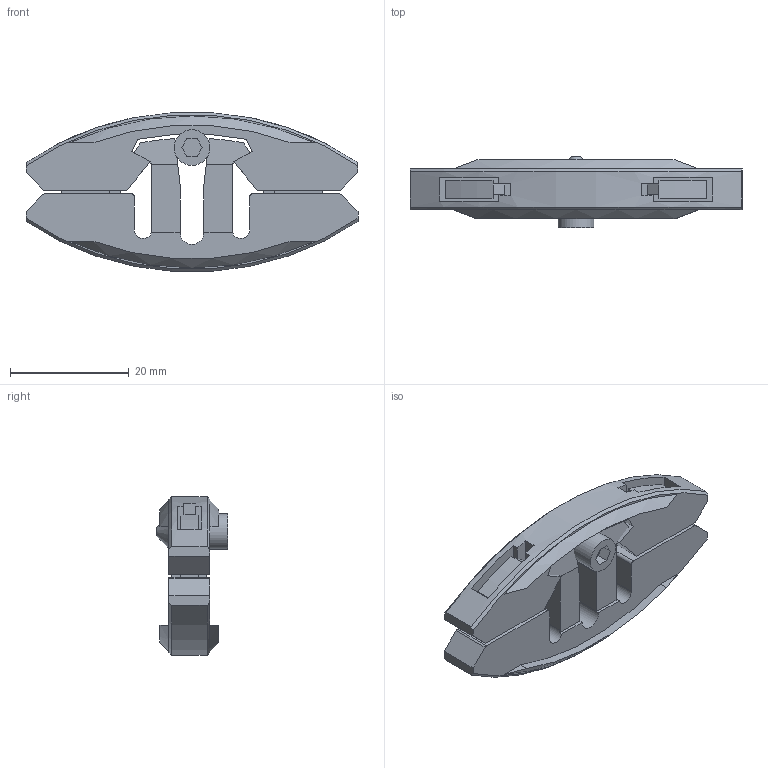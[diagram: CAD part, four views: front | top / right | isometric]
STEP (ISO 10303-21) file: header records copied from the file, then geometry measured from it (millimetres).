
FILE_DESCRIPTION(/* description */ ('Unknown'),/* implementation_level */ '2;1');
FILE_NAME(/* name */ 'FIYU_Fast',/* time_stamp */ '2023-10-04T13:39:07+02:00',/* author */ ('Unknown'),/* organization */ ('Unknown'),/* preprocessor_version */ 'ST-DEVELOPER v16.7',/* originating_system */ 'Solid Edge',/* authorisation */ 'Unknown');
FILE_SCHEMA (('AUTOMOTIVE_DESIGN {1 0 10303 214 3 1 1}'));
Length unit declared in the file: millimetre
Products named in the file (4): FIYU_Fast; FIYU_Fast_Spreizteil; FIYU_Fast_Klemmteil; Gewindestift_M6x12
Assembly tree (3 placements, depth 2):
  FIYU_Fast
    FIYU_Fast_Spreizteil
    FIYU_Fast_Klemmteil
    Gewindestift_M6x12
Bounding box: 56 x 12 x 26.78 mm (x, y, z)
Volume: 6824.8 mm3; surface area: 5795.6 mm2
Topology: 3 solids, 3 shells, 129 faces, 349 edges, 231 vertices
Faces by surface type: plane 97, cylinder 23, cone 9
Full cylindrical faces by diameter (mm): 6 x1
Entity records: 4154 total; most frequent: CARTESIAN_POINT 759, ORIENTED_EDGE 694, DIRECTION 672, EDGE_CURVE 347, LINE 256, VECTOR 256, VERTEX_POINT 231, AXIS2_PLACEMENT_3D 208
